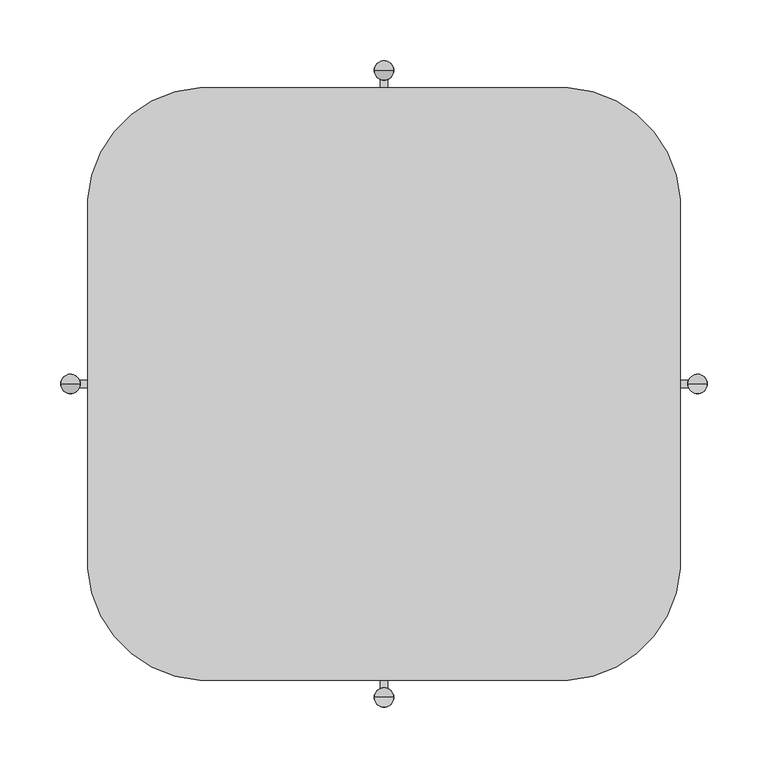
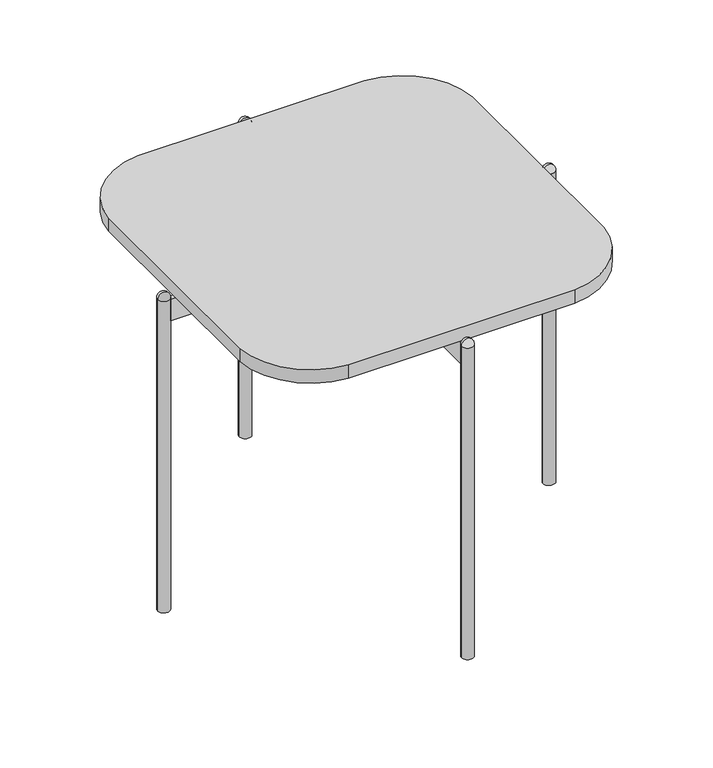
"""IFC4 building model written with IfcOpenShell, lengths in millimetres: furniture geometry, RECTANGULAR TABLE_H=45 : EI145B055050A_M."""

from ifc_helpers import new_model, si_unit, point, frame, frame_2d, origin, origin_with_axes, origin_2d, place, context, project, spatial, polyline, circle_curve, ellipse_curve, trimmed, segment, composite_curve, outline, extrude, source, transform, mapped, element, save
from ifc_brep_helpers import plane_surface, revolved_surface, advanced_brep


def furniture_e455597c(model_context):
    return source(origin(), model_context, "Body", "SolidModel", [
        extrude(outline(composite_curve([segment(trimmed(circle_curve(frame_2d((-145.119559, 145.119559)), 99.0), [point((-243.8958721, 151.7708721))], [point((-151.7708721, 243.8958722))], False, "CARTESIAN"), True, "CONTINUOUS"), segment(trimmed(circle_curve(frame_2d((0.0, -2010.0000004)), 2259.0000004), [point((-151.7708721, 243.8958722))], [point((151.7708721, 243.8958722))], False, "CARTESIAN"), True, "CONTINUOUS"), segment(trimmed(circle_curve(frame_2d((145.119559, 145.119559)), 99.0000001), [point((151.7708721, 243.8958722))], [point((243.8958722, 151.7708721))], False, "CARTESIAN"), True, "CONTINUOUS"), segment(trimmed(circle_curve(frame_2d((-2010.0000004, 0.0)), 2259.0000004), [point((243.8958722, 151.7708721))], [point((243.8958722, -151.7708721))], False, "CARTESIAN"), True, "CONTINUOUS"), segment(trimmed(circle_curve(frame_2d((145.119559, -145.1195589)), 99.0), [point((243.8958722, -151.7708721))], [point((151.7708721, -243.8958721))], False, "CARTESIAN"), True, "CONTINUOUS"), segment(trimmed(circle_curve(frame_2d((0.0, 2010.0000004)), 2259.0000004), [point((151.7708721, -243.8958721))], [point((-151.7708721, -243.8958721))], False, "CARTESIAN"), True, "CONTINUOUS"), segment(trimmed(circle_curve(frame_2d((-145.1195589, -145.1195589)), 99.0), [point((-151.7708721, -243.8958721))], [point((-243.8958721, -151.7708721))], False, "CARTESIAN"), True, "CONTINUOUS"), segment(trimmed(circle_curve(frame_2d((2010.0000004, 0.0)), 2259.0000004), [point((-243.8958721, -151.7708721))], [point((-243.8958721, 151.7708721))], False, "CARTESIAN"), True, "CONTINUOUS")], self_intersect=False)), frame((0.0, 0.0, 437.6939464), z_axis=(0.0, 0.0, 1.0), x_axis=(1.0, 0.0, 0.0)), (0.0, 0.0, 1.0), 19.0),
        advanced_brep(
        [(-8.0, -257.95, 441.1666667), (8.0, -257.95, 441.1666667), (0.0, -257.95, 449.1666667), (0.0, -257.95, 441.1666667)],
        [
            (0, 1, circle_curve(frame((0.0, -257.95, 441.1666667), z_axis=(0.0, 0.0, 1.0), x_axis=(1.0, 0.0, 0.0)), 8.0)),
            (1, 2, circle_curve(frame((0.0, -257.95, 441.1666667), z_axis=(0.0, -1.0, 0.0), x_axis=(1.0, 0.0, 0.0)), 8.0)),
            (2, 0, circle_curve(frame((0.0, -257.95, 441.1666667), z_axis=(0.0, -1.0, 0.0), x_axis=(-1.0, 0.0, 0.0)), 8.0)),
            (1, 0, circle_curve(frame((0.0, -257.95, 441.1666667), z_axis=(0.0, 0.0, 1.0), x_axis=(1.0, 0.0, 0.0)), 8.0)),
            (3, 1),
            (0, 3),
        ],
        [
            revolved_surface(trimmed(ellipse_curve(frame((0.0, -257.95, 441.1666667), z_axis=(0.0, 1.0, 0.0), x_axis=(1.0, 0.0, 0.0)), 8.0, 8.0), [point((0.0, -257.95, 449.1666667))], [point((8.0, -257.95, 441.1666667))], True, "CARTESIAN"), (0.0, -257.95, 2638.4), (0.0, 0.0, -1.0)),
            plane_surface(frame((0.0, -257.95, 441.1666667), z_axis=(0.0, 0.0, -1.0), x_axis=(1.0, 0.0, 0.0))),
        ],
        [
            (0, [[1, 2, 3]]),
            (0, [[4, -3, -2]]),
            (1, [[5, -1, 6]]),
            (1, [[-6, -4, -5]]),
        ],
    ),
        advanced_brep(
        [(265.95, 0.0, 441.1666667), (249.95, 0.0, 441.1666667), (257.95, 0.0, 449.1666667), (257.95, 0.0, 441.1666667)],
        [
            (0, 1, circle_curve(frame((257.95, 0.0, 441.1666667), z_axis=(0.0, 0.0, 1.0), x_axis=(-1.0, 0.0, 0.0)), 8.0)),
            (1, 2, circle_curve(frame((257.95, 0.0, 441.1666667), z_axis=(0.0, 1.0, 0.0), x_axis=(-1.0, 0.0, 0.0)), 8.0)),
            (2, 0, circle_curve(frame((257.95, 0.0, 441.1666667), z_axis=(0.0, 1.0, 0.0), x_axis=(1.0, 0.0, 0.0)), 8.0)),
            (1, 0, circle_curve(frame((257.95, 0.0, 441.1666667), z_axis=(0.0, 0.0, 1.0), x_axis=(-1.0, 0.0, 0.0)), 8.0)),
            (3, 1),
            (0, 3),
        ],
        [
            revolved_surface(trimmed(ellipse_curve(frame((257.95, 0.0, 441.1666667), z_axis=(0.0, -1.0, 0.0), x_axis=(-1.0, 0.0, 0.0)), 8.0, 8.0), [point((257.95, 0.0, 449.1666667))], [point((249.95, 0.0, 441.1666667))], True, "CARTESIAN"), (257.95, 0.0, 2638.4), (0.0, 0.0, -1.0)),
            plane_surface(frame((257.95, 0.0, 441.1666667), z_axis=(0.0, 0.0, -1.0), x_axis=(-1.0, 0.0, 0.0))),
        ],
        [
            (0, [[1, 2, 3]]),
            (0, [[4, -3, -2]]),
            (1, [[5, -1, 6]]),
            (1, [[-6, -4, -5]]),
        ],
    ),
        advanced_brep(
        [(0.0, 257.95, 449.1666667), (8.0, 257.95, 441.1666667), (-8.0, 257.95, 441.1666667), (0.0, 257.95, 441.1666667)],
        [
            (0, 1, circle_curve(frame((0.0, 257.95, 441.1666667), z_axis=(0.0, 1.0, 0.0), x_axis=(1.0, 0.0, 0.0)), 8.0)),
            (1, 2, circle_curve(frame((0.0, 257.95, 441.1666667), z_axis=(0.0, 0.0, 1.0), x_axis=(1.0, 0.0, 0.0)), 8.0)),
            (2, 0, circle_curve(frame((0.0, 257.95, 441.1666667), z_axis=(0.0, 1.0, 0.0), x_axis=(-1.0, 0.0, 0.0)), 8.0)),
            (2, 1, circle_curve(frame((0.0, 257.95, 441.1666667), z_axis=(0.0, 0.0, 1.0), x_axis=(1.0, 0.0, 0.0)), 8.0)),
            (1, 3),
            (3, 2),
        ],
        [
            revolved_surface(trimmed(ellipse_curve(frame((0.0, 257.95, 441.1666667), z_axis=(0.0, -1.0, 0.0), x_axis=(1.0, 0.0, 0.0)), 8.0, 8.0), [point((8.0, 257.95, 441.1666667))], [point((0.0, 257.95, 449.1666667))], True, "CARTESIAN"), (0.0, 257.95, 2638.4), (0.0, 0.0, 1.0)),
            plane_surface(frame((0.0, 257.95, 441.1666667), z_axis=(0.0, 0.0, -1.0), x_axis=(1.0, 0.0, 0.0))),
        ],
        [
            (0, [[1, 2, 3]]),
            (0, [[-3, 4, -1]]),
            (1, [[-2, 5, 6]]),
            (1, [[-4, -6, -5]]),
        ],
    ),
        advanced_brep(
        [(-257.95, 0.0, 449.1666667), (-249.95, 0.0, 441.1666667), (-265.95, 0.0, 441.1666667), (-257.95, 0.0, 441.1666667)],
        [
            (0, 1, circle_curve(frame((-257.95, 0.0, 441.1666667), z_axis=(0.0, 1.0, 0.0), x_axis=(1.0, 0.0, 0.0)), 8.0)),
            (1, 2, circle_curve(frame((-257.95, 0.0, 441.1666667), z_axis=(0.0, 0.0, 1.0), x_axis=(1.0, 0.0, 0.0)), 8.0)),
            (2, 0, circle_curve(frame((-257.95, 0.0, 441.1666667), z_axis=(0.0, 1.0, 0.0), x_axis=(-1.0, 0.0, 0.0)), 8.0)),
            (2, 1, circle_curve(frame((-257.95, 0.0, 441.1666667), z_axis=(0.0, 0.0, 1.0), x_axis=(1.0, 0.0, 0.0)), 8.0)),
            (1, 3),
            (3, 2),
        ],
        [
            revolved_surface(trimmed(ellipse_curve(frame((-257.95, 0.0, 441.1666667), z_axis=(0.0, -1.0, 0.0), x_axis=(1.0, 0.0, 0.0)), 8.0, 8.0), [point((-249.95, 0.0, 441.1666667))], [point((-257.95, 0.0, 449.1666667))], True, "CARTESIAN"), (-257.95, 0.0, 2638.4), (0.0, 0.0, 1.0)),
            plane_surface(frame((-257.95, 0.0, 441.1666667), z_axis=(0.0, 0.0, -1.0), x_axis=(1.0, 0.0, 0.0))),
        ],
        [
            (0, [[1, 2, 3]]),
            (0, [[-3, 4, -1]]),
            (1, [[-2, 5, 6]]),
            (1, [[-4, -6, -5]]),
        ],
    ),
        extrude(outline(composite_curve([segment(trimmed(circle_curve(origin_2d(), 23.0), [point((3.0, 22.8035085))], [point((-3.0, 22.8035085))], True, "CARTESIAN"), True, "CONTINUOUS"), segment(polyline([(-3.0, 22.8035085), (-3.0, 250.5338015)]), True, "CONTINUOUS"), segment(trimmed(circle_curve(frame_2d((0.0, 257.95)), 8.0), [point((-3.0, 250.5338015))], [point((3.0, 250.5338015))], True, "CARTESIAN"), True, "CONTINUOUS"), segment(polyline([(3.0, 250.5338015), (3.0, 22.8035085)]), True, "CONTINUOUS")], self_intersect=False)), frame((0.0, 0.0, 407.6939464), z_axis=(0.0, 0.0, 1.0), x_axis=(1.0, 0.0, 0.0)), (0.0, 0.0, 1.0), 30.0),
        extrude(outline(composite_curve([segment(trimmed(circle_curve(origin_2d(), 23.0), [point((-3.0, -22.8035085))], [point((3.0, -22.8035085))], True, "CARTESIAN"), True, "CONTINUOUS"), segment(polyline([(3.0, -22.8035085), (3.0, -250.5338015)]), True, "CONTINUOUS"), segment(trimmed(circle_curve(frame_2d((0.0, -257.95)), 8.0), [point((3.0, -250.5338015))], [point((-3.0, -250.5338015))], True, "CARTESIAN"), True, "CONTINUOUS"), segment(polyline([(-3.0, -250.5338015), (-3.0, -22.8035085)]), True, "CONTINUOUS")], self_intersect=False)), frame((0.0, 0.0, 407.6939464), z_axis=(0.0, 0.0, 1.0), x_axis=(1.0, 0.0, 0.0)), (0.0, 0.0, 1.0), 30.0),
        extrude(outline(composite_curve([segment(trimmed(circle_curve(origin_2d(), 23.0), [point((-22.8035085, 3.0))], [point((-22.8035085, -3.0))], True, "CARTESIAN"), True, "CONTINUOUS"), segment(polyline([(-22.8035085, -3.0), (-250.5338015, -3.0)]), True, "CONTINUOUS"), segment(trimmed(circle_curve(frame_2d((-257.95, 0.0)), 8.0), [point((-250.5338015, -3.0))], [point((-249.95, 0.0))], True, "CARTESIAN"), True, "CONTINUOUS"), segment(trimmed(circle_curve(frame_2d((-257.95, 0.0)), 8.0), [point((-249.95, 0.0))], [point((-250.5338015, 3.0))], True, "CARTESIAN"), True, "CONTINUOUS"), segment(polyline([(-250.5338015, 3.0), (-22.8035085, 3.0)]), True, "CONTINUOUS")], self_intersect=False)), frame((0.0, 0.0, 407.6939464), z_axis=(0.0, 0.0, 1.0), x_axis=(1.0, 0.0, 0.0)), (0.0, 0.0, 1.0), 30.0),
        extrude(outline(composite_curve([segment(trimmed(circle_curve(origin_2d(), 23.0), [point((22.8035085, -3.0))], [point((22.8035085, 3.0))], True, "CARTESIAN"), True, "CONTINUOUS"), segment(polyline([(22.8035085, 3.0), (250.5338015, 3.0)]), True, "CONTINUOUS"), segment(trimmed(circle_curve(frame_2d((257.95, 0.0)), 8.0), [point((250.5338015, 3.0))], [point((249.95, 0.0))], True, "CARTESIAN"), True, "CONTINUOUS"), segment(trimmed(circle_curve(frame_2d((257.95, 0.0)), 8.0), [point((249.95, 0.0))], [point((250.5338015, -3.0))], True, "CARTESIAN"), True, "CONTINUOUS"), segment(polyline([(250.5338015, -3.0), (22.8035085, -3.0)]), True, "CONTINUOUS")], self_intersect=False)), frame((0.0, 0.0, 407.6939464), z_axis=(0.0, 0.0, 1.0), x_axis=(1.0, 0.0, 0.0)), (0.0, 0.0, 1.0), 30.0),
        extrude(outline(composite_curve([segment(trimmed(circle_curve(origin_2d(), 23.0), [point((-23.0, 0.0))], [point((23.0, 0.0))], False, "CARTESIAN"), True, "CONTINUOUS"), segment(trimmed(circle_curve(origin_2d(), 23.0), [point((23.0, 0.0))], [point((-23.0, 0.0))], False, "CARTESIAN"), True, "CONTINUOUS")], self_intersect=False)), frame((0.0, 0.0, 407.6939464), z_axis=(0.0, 0.0, 1.0), x_axis=(1.0, 0.0, 0.0)), (0.0, 0.0, 1.0), 30.0),
        extrude(outline(composite_curve([segment(trimmed(circle_curve(frame_2d((0.0, 257.95)), 8.0), [point((-8.0, 257.95))], [point((8.0, 257.95))], False, "CARTESIAN"), True, "CONTINUOUS"), segment(trimmed(circle_curve(frame_2d((0.0, 257.95)), 8.0), [point((8.0, 257.95))], [point((-8.0, 257.95))], False, "CARTESIAN"), True, "CONTINUOUS")], self_intersect=False)), origin_with_axes(), (0.0, 0.0, 1.0), 441.1666667),
        extrude(outline(composite_curve([segment(trimmed(circle_curve(frame_2d((-257.95, 0.0)), 8.0), [point((-265.95, 0.0))], [point((-249.95, 0.0))], False, "CARTESIAN"), True, "CONTINUOUS"), segment(trimmed(circle_curve(frame_2d((-257.95, 0.0)), 8.0), [point((-249.95, 0.0))], [point((-265.95, 0.0))], False, "CARTESIAN"), True, "CONTINUOUS")], self_intersect=False)), origin_with_axes(), (0.0, 0.0, 1.0), 441.1666667),
        extrude(outline(composite_curve([segment(trimmed(circle_curve(frame_2d((0.0, -257.95)), 8.0), [point((-8.0, -257.95))], [point((8.0, -257.95))], False, "CARTESIAN"), True, "CONTINUOUS"), segment(trimmed(circle_curve(frame_2d((0.0, -257.95)), 8.0), [point((8.0, -257.95))], [point((-8.0, -257.95))], False, "CARTESIAN"), True, "CONTINUOUS")], self_intersect=False)), origin_with_axes(), (0.0, 0.0, 1.0), 441.1666667),
        extrude(outline(composite_curve([segment(trimmed(circle_curve(frame_2d((257.95, 0.0)), 8.0), [point((249.95, 0.0))], [point((265.95, 0.0))], False, "CARTESIAN"), True, "CONTINUOUS"), segment(trimmed(circle_curve(frame_2d((257.95, 0.0)), 8.0), [point((265.95, 0.0))], [point((249.95, 0.0))], False, "CARTESIAN"), True, "CONTINUOUS")], self_intersect=False)), origin_with_axes(), (0.0, 0.0, 1.0), 441.1666667),
    ])


if __name__ == "__main__":
    model = new_model("IFC4")
    model_context = context("Model", 3, world=origin())
    ifc_project = project(units=[si_unit("LENGTHUNIT", "METRE", prefix="MILLI")], contexts=[model_context])
    site = spatial("IfcSite", under=ifc_project)
    building = spatial("IfcBuilding", under=site)
    placement = place(None, origin())
    furniture_shape = furniture_e455597c(model_context)
    element("IfcFurniture", 1, ObjectType="RECTANGULAR TABLE_H=45 : EI145B055050A_M", at=placement, inside=building, context=model_context, shape_type="MappedRepresentation", body=[
        mapped(furniture_shape, transform((0.0, 0.0, 0.0), x_axis=(1.0, 0.0, 0.0), y_axis=(0.0, 1.0, 0.0), z_axis=(0.0, 0.0, 1.0))),
    ])
    save(model, "model.ifc")
